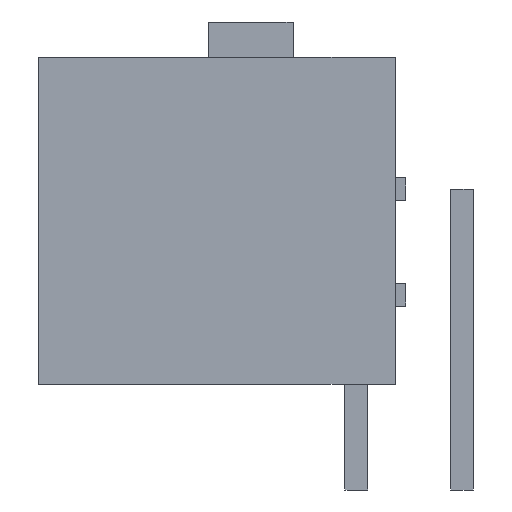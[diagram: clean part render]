
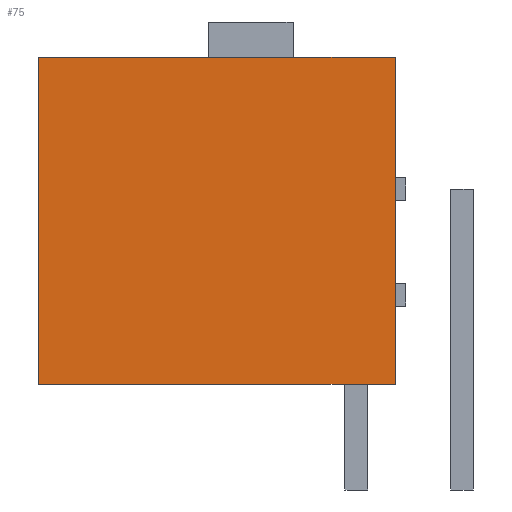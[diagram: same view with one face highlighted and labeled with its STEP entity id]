
A CAD part, left-side view. The second image highlights one B-rep face of the part: STEP entity #75.
In plain terms, the highlighted planar face has unit normal (-1, 0, 0).
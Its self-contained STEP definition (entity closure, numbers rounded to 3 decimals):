
#75 = ADVANCED_FACE('',(#76),#90,.F.);
#76 = FACE_BOUND('',#77,.F.);
#77 = EDGE_LOOP('',(#78,#113,#141,#169));
#78 = ORIENTED_EDGE('',*,*,#79,.F.);
#79 = EDGE_CURVE('',#80,#82,#84,.T.);
#80 = VERTEX_POINT('',#81);
#81 = CARTESIAN_POINT('',(-3.685,-1.1,0.));
#82 = VERTEX_POINT('',#83);
#83 = CARTESIAN_POINT('',(-3.685,-1.1,9.3));
#84 = SURFACE_CURVE('',#85,(#89,#101),.PCURVE_S1.);
#85 = LINE('',#86,#87);
#86 = CARTESIAN_POINT('',(-3.685,-1.1,0.));
#87 = VECTOR('',#88,1.);
#88 = DIRECTION('',(0.,0.,1.));
#89 = PCURVE('',#90,#95);
#90 = PLANE('',#91);
#91 = AXIS2_PLACEMENT_3D('',#92,#93,#94);
#92 = CARTESIAN_POINT('',(-3.685,-1.1,0.));
#93 = DIRECTION('',(1.,0.,0.));
#94 = DIRECTION('',(0.,0.,1.));
#95 = DEFINITIONAL_REPRESENTATION('',(#96),#100);
#96 = LINE('',#97,#98);
#97 = CARTESIAN_POINT('',(0.,0.));
#98 = VECTOR('',#99,1.);
#99 = DIRECTION('',(1.,0.));
#100 = ( GEOMETRIC_REPRESENTATION_CONTEXT(2) 
PARAMETRIC_REPRESENTATION_CONTEXT() REPRESENTATION_CONTEXT('2D SPACE',''
  ) );
#101 = PCURVE('',#102,#107);
#102 = PLANE('',#103);
#103 = AXIS2_PLACEMENT_3D('',#104,#105,#106);
#104 = CARTESIAN_POINT('',(-3.685,-1.1,0.));
#105 = DIRECTION('',(0.,1.,0.));
#106 = DIRECTION('',(0.,0.,1.));
#107 = DEFINITIONAL_REPRESENTATION('',(#108),#112);
#108 = LINE('',#109,#110);
#109 = CARTESIAN_POINT('',(0.,0.));
#110 = VECTOR('',#111,1.);
#111 = DIRECTION('',(1.,0.));
#112 = ( GEOMETRIC_REPRESENTATION_CONTEXT(2) 
PARAMETRIC_REPRESENTATION_CONTEXT() REPRESENTATION_CONTEXT('2D SPACE',''
  ) );
#113 = ORIENTED_EDGE('',*,*,#114,.T.);
#114 = EDGE_CURVE('',#80,#115,#117,.T.);
#115 = VERTEX_POINT('',#116);
#116 = CARTESIAN_POINT('',(-3.685,9.03,0.));
#117 = SURFACE_CURVE('',#118,(#122,#129),.PCURVE_S1.);
#118 = LINE('',#119,#120);
#119 = CARTESIAN_POINT('',(-3.685,-1.1,0.));
#120 = VECTOR('',#121,1.);
#121 = DIRECTION('',(0.,1.,0.));
#122 = PCURVE('',#90,#123);
#123 = DEFINITIONAL_REPRESENTATION('',(#124),#128);
#124 = LINE('',#125,#126);
#125 = CARTESIAN_POINT('',(0.,0.));
#126 = VECTOR('',#127,1.);
#127 = DIRECTION('',(0.,-1.));
#128 = ( GEOMETRIC_REPRESENTATION_CONTEXT(2) 
PARAMETRIC_REPRESENTATION_CONTEXT() REPRESENTATION_CONTEXT('2D SPACE',''
  ) );
#129 = PCURVE('',#130,#135);
#130 = PLANE('',#131);
#131 = AXIS2_PLACEMENT_3D('',#132,#133,#134);
#132 = CARTESIAN_POINT('',(-3.685,-1.1,0.));
#133 = DIRECTION('',(0.,0.,1.));
#134 = DIRECTION('',(1.,0.,0.));
#135 = DEFINITIONAL_REPRESENTATION('',(#136),#140);
#136 = LINE('',#137,#138);
#137 = CARTESIAN_POINT('',(0.,0.));
#138 = VECTOR('',#139,1.);
#139 = DIRECTION('',(0.,1.));
#140 = ( GEOMETRIC_REPRESENTATION_CONTEXT(2) 
PARAMETRIC_REPRESENTATION_CONTEXT() REPRESENTATION_CONTEXT('2D SPACE',''
  ) );
#141 = ORIENTED_EDGE('',*,*,#142,.T.);
#142 = EDGE_CURVE('',#115,#143,#145,.T.);
#143 = VERTEX_POINT('',#144);
#144 = CARTESIAN_POINT('',(-3.685,9.03,9.3));
#145 = SURFACE_CURVE('',#146,(#150,#157),.PCURVE_S1.);
#146 = LINE('',#147,#148);
#147 = CARTESIAN_POINT('',(-3.685,9.03,0.));
#148 = VECTOR('',#149,1.);
#149 = DIRECTION('',(0.,0.,1.));
#150 = PCURVE('',#90,#151);
#151 = DEFINITIONAL_REPRESENTATION('',(#152),#156);
#152 = LINE('',#153,#154);
#153 = CARTESIAN_POINT('',(0.,-10.13));
#154 = VECTOR('',#155,1.);
#155 = DIRECTION('',(1.,0.));
#156 = ( GEOMETRIC_REPRESENTATION_CONTEXT(2) 
PARAMETRIC_REPRESENTATION_CONTEXT() REPRESENTATION_CONTEXT('2D SPACE',''
  ) );
#157 = PCURVE('',#158,#163);
#158 = PLANE('',#159);
#159 = AXIS2_PLACEMENT_3D('',#160,#161,#162);
#160 = CARTESIAN_POINT('',(-3.685,9.03,0.));
#161 = DIRECTION('',(0.,1.,0.));
#162 = DIRECTION('',(0.,0.,1.));
#163 = DEFINITIONAL_REPRESENTATION('',(#164),#168);
#164 = LINE('',#165,#166);
#165 = CARTESIAN_POINT('',(0.,0.));
#166 = VECTOR('',#167,1.);
#167 = DIRECTION('',(1.,0.));
#168 = ( GEOMETRIC_REPRESENTATION_CONTEXT(2) 
PARAMETRIC_REPRESENTATION_CONTEXT() REPRESENTATION_CONTEXT('2D SPACE',''
  ) );
#169 = ORIENTED_EDGE('',*,*,#170,.F.);
#170 = EDGE_CURVE('',#82,#143,#171,.T.);
#171 = SURFACE_CURVE('',#172,(#176,#183),.PCURVE_S1.);
#172 = LINE('',#173,#174);
#173 = CARTESIAN_POINT('',(-3.685,-1.1,9.3));
#174 = VECTOR('',#175,1.);
#175 = DIRECTION('',(0.,1.,0.));
#176 = PCURVE('',#90,#177);
#177 = DEFINITIONAL_REPRESENTATION('',(#178),#182);
#178 = LINE('',#179,#180);
#179 = CARTESIAN_POINT('',(9.3,0.));
#180 = VECTOR('',#181,1.);
#181 = DIRECTION('',(0.,-1.));
#182 = ( GEOMETRIC_REPRESENTATION_CONTEXT(2) 
PARAMETRIC_REPRESENTATION_CONTEXT() REPRESENTATION_CONTEXT('2D SPACE',''
  ) );
#183 = PCURVE('',#184,#189);
#184 = PLANE('',#185);
#185 = AXIS2_PLACEMENT_3D('',#186,#187,#188);
#186 = CARTESIAN_POINT('',(-3.685,-1.1,9.3));
#187 = DIRECTION('',(0.,0.,1.));
#188 = DIRECTION('',(1.,0.,0.));
#189 = DEFINITIONAL_REPRESENTATION('',(#190),#194);
#190 = LINE('',#191,#192);
#191 = CARTESIAN_POINT('',(0.,0.));
#192 = VECTOR('',#193,1.);
#193 = DIRECTION('',(0.,1.));
#194 = ( GEOMETRIC_REPRESENTATION_CONTEXT(2) 
PARAMETRIC_REPRESENTATION_CONTEXT() REPRESENTATION_CONTEXT('2D SPACE',''
  ) );
